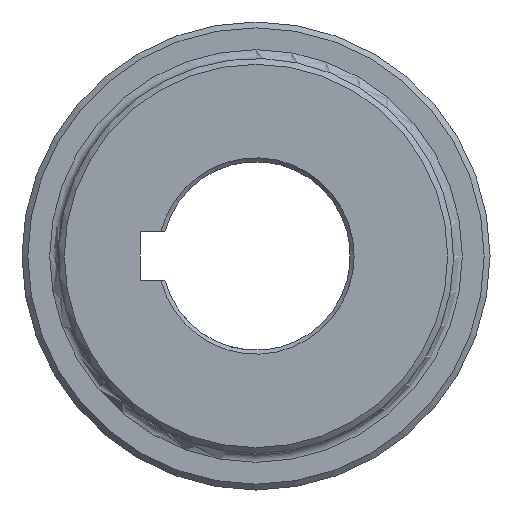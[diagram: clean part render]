
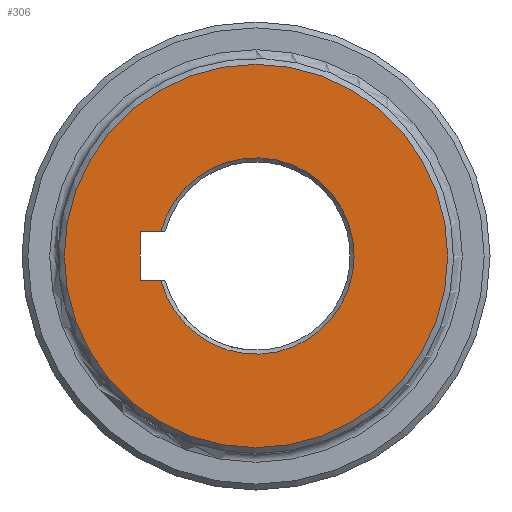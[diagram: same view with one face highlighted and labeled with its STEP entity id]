
A CAD part, left-side view. The second image highlights one B-rep face of the part: STEP entity #306.
In plain terms, the highlighted planar face has unit normal (-1, 0, 0).
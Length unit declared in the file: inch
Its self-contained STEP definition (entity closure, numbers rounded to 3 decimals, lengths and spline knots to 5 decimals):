
#103 = ORIENTED_EDGE ( 'NONE', *, *, #2397, .F. ) ;
#306 = ADVANCED_FACE ( 'NONE', ( #2356, #843 ), #2437, .F. ) ;
#308 = LINE ( 'NONE', #1098, #829 ) ;
#476 = ORIENTED_EDGE ( 'NONE', *, *, #980, .F. ) ;
#526 = ORIENTED_EDGE ( 'NONE', *, *, #2703, .T. ) ;
#529 = CARTESIAN_POINT ( 'NONE',  ( 0., 1.191, 0.25 ) ) ;
#585 = CARTESIAN_POINT ( 'NONE',  ( 0., 0., 0. ) ) ;
#721 = VERTEX_POINT ( 'NONE', #529 ) ;
#818 = EDGE_CURVE ( 'NONE', #1736, #721, #308, .T. ) ;
#829 = VECTOR ( 'NONE', #2208, 39.37008 ) ;
#842 = DIRECTION ( 'NONE',  ( 0., 0., -1. ) ) ;
#843 = FACE_BOUND ( 'NONE', #2855, .T. ) ;
#953 = DIRECTION ( 'NONE',  ( 0., 0., -1. ) ) ;
#980 = EDGE_CURVE ( 'NONE', #721, #2876, #2749, .T. ) ;
#1042 = VERTEX_POINT ( 'NONE', #1750 ) ;
#1098 = CARTESIAN_POINT ( 'NONE',  ( 0., 0., 0.25 ) ) ;
#1101 = CARTESIAN_POINT ( 'NONE',  ( 0., 1.191, -0.25 ) ) ;
#1137 = CIRCLE ( 'NONE', #2155, 1.009 ) ;
#1185 = DIRECTION ( 'NONE',  ( 0., 0., -1. ) ) ;
#1197 = VECTOR ( 'NONE', #2179, 39.37008 ) ;
#1243 = EDGE_LOOP ( 'NONE', ( #2404 ) ) ;
#1356 = CIRCLE ( 'NONE', #1799, 1.97 ) ;
#1500 = DIRECTION ( 'NONE',  ( 1., 0., 0. ) ) ;
#1511 = DIRECTION ( 'NONE',  ( 0., -1., 0. ) ) ;
#1546 = DIRECTION ( 'NONE',  ( 1., 0., 0. ) ) ;
#1582 = EDGE_CURVE ( 'NONE', #2215, #2215, #1356, .T. ) ;
#1736 = VERTEX_POINT ( 'NONE', #2794 ) ;
#1750 = CARTESIAN_POINT ( 'NONE',  ( 0., 0.97754, -0.25 ) ) ;
#1799 = AXIS2_PLACEMENT_3D ( 'NONE', #2013, #2676, #842 ) ;
#1850 = CARTESIAN_POINT ( 'NONE',  ( 0., 0., -1.97 ) ) ;
#1900 = VECTOR ( 'NONE', #1511, 39.37008 ) ;
#2013 = CARTESIAN_POINT ( 'NONE',  ( 0., 0., 0. ) ) ;
#2088 = CARTESIAN_POINT ( 'NONE',  ( 0., 1.191, -0.25 ) ) ;
#2155 = AXIS2_PLACEMENT_3D ( 'NONE', #2766, #1500, #1185 ) ;
#2179 = DIRECTION ( 'NONE',  ( 0., 0., -1. ) ) ;
#2208 = DIRECTION ( 'NONE',  ( 0., 1., 0. ) ) ;
#2215 = VERTEX_POINT ( 'NONE', #1850 ) ;
#2356 = FACE_OUTER_BOUND ( 'NONE', #1243, .T. ) ;
#2397 = EDGE_CURVE ( 'NONE', #2876, #1042, #2775, .T. ) ;
#2404 = ORIENTED_EDGE ( 'NONE', *, *, #1582, .T. ) ;
#2437 = PLANE ( 'NONE',  #2894 ) ;
#2676 = DIRECTION ( 'NONE',  ( -1., 0., 0. ) ) ;
#2703 = EDGE_CURVE ( 'NONE', #1736, #1042, #1137, .T. ) ;
#2739 = ORIENTED_EDGE ( 'NONE', *, *, #818, .F. ) ;
#2749 = LINE ( 'NONE', #2088, #1197 ) ;
#2766 = CARTESIAN_POINT ( 'NONE',  ( 0., 0., 0. ) ) ;
#2775 = LINE ( 'NONE', #2865, #1900 ) ;
#2794 = CARTESIAN_POINT ( 'NONE',  ( 0., 0.97754, 0.25 ) ) ;
#2855 = EDGE_LOOP ( 'NONE', ( #2739, #526, #103, #476 ) ) ;
#2865 = CARTESIAN_POINT ( 'NONE',  ( 0., 0., -0.25 ) ) ;
#2876 = VERTEX_POINT ( 'NONE', #1101 ) ;
#2894 = AXIS2_PLACEMENT_3D ( 'NONE', #585, #1546, #953 ) ;
